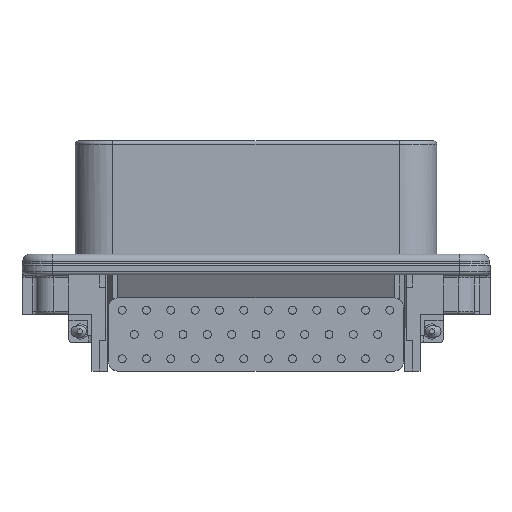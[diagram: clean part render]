
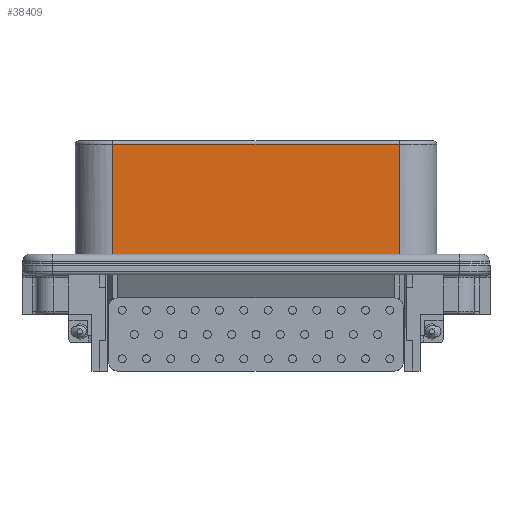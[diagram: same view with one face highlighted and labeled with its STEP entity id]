
A CAD part, front view. The second image highlights one B-rep face of the part: STEP entity #38409.
In plain terms, the highlighted planar face has unit normal (0, -1, 0).
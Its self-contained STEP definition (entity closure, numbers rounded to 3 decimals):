
#14535=DIRECTION('',(1.,0.,0.));
#14536=VECTOR('',#14535,47.);
#14537=CARTESIAN_POINT('',(-23.5,-11.8,-0.5));
#14538=LINE('',#14537,#14536);
#14539=DIRECTION('',(1.,0.,0.));
#14540=VECTOR('',#14539,47.);
#14541=CARTESIAN_POINT('',(-23.5,-11.8,-20.));
#14542=LINE('',#14541,#14540);
#14543=DIRECTION('',(0.,0.,-1.));
#14544=VECTOR('',#14543,19.5);
#14545=CARTESIAN_POINT('',(-23.5,-11.8,-0.5));
#14546=LINE('',#14545,#14544);
#14566=DIRECTION('',(0.,0.,-1.));
#14567=VECTOR('',#14566,19.5);
#14568=CARTESIAN_POINT('',(23.5,-11.8,-0.5));
#14569=LINE('',#14568,#14567);
#19738=CARTESIAN_POINT('',(-23.5,-11.8,-20.));
#19739=VERTEX_POINT('',#19738);
#19740=CARTESIAN_POINT('',(23.5,-11.8,-20.));
#19741=VERTEX_POINT('',#19740);
#20200=CARTESIAN_POINT('',(23.5,-11.8,-0.5));
#20201=VERTEX_POINT('',#20200);
#20204=CARTESIAN_POINT('',(-23.5,-11.8,-0.5));
#20205=VERTEX_POINT('',#20204);
#38397=CARTESIAN_POINT('',(-23.5,-11.8,0.));
#38398=DIRECTION('',(0.,-1.,0.));
#38399=DIRECTION('',(1.,0.,0.));
#38400=AXIS2_PLACEMENT_3D('',#38397,#38398,#38399);
#38401=PLANE('',#38400);
#38402=ORIENTED_EDGE('',*,*,#37946,.T.);
#38404=ORIENTED_EDGE('',*,*,#38403,.T.);
#38405=ORIENTED_EDGE('',*,*,#24064,.F.);
#38406=ORIENTED_EDGE('',*,*,#38387,.F.);
#38407=EDGE_LOOP('',(#38402,#38404,#38405,#38406));
#38408=FACE_OUTER_BOUND('',#38407,.F.);
#24064=EDGE_CURVE('',#19739,#19741,#14542,.T.);
#37946=EDGE_CURVE('',#20205,#20201,#14538,.T.);
#38387=EDGE_CURVE('',#20205,#19739,#14546,.T.);
#38403=EDGE_CURVE('',#20201,#19741,#14569,.T.);
#38409=ADVANCED_FACE('',(#38408),#38401,.T.);
